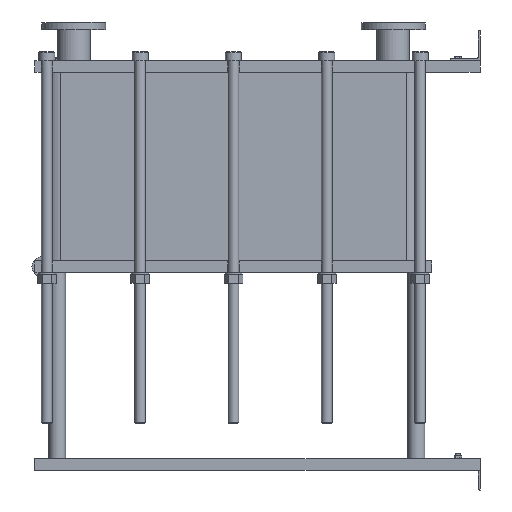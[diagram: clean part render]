
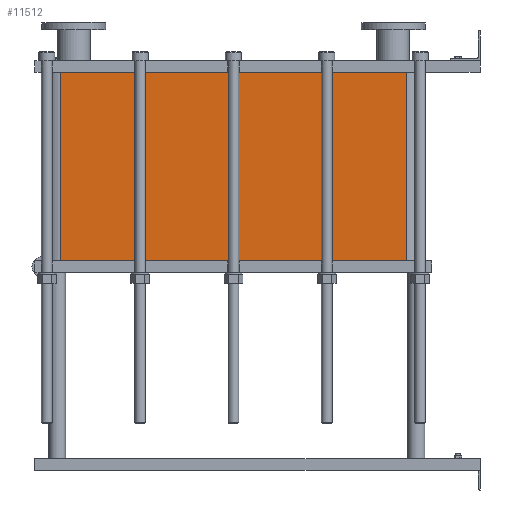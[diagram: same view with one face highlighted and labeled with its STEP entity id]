
A CAD part, left-side view. The second image highlights one B-rep face of the part: STEP entity #11512.
In plain terms, the highlighted planar face has unit normal (-1, 0, 0).
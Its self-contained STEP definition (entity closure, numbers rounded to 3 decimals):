
#1129=LINE('',#23232,#2102);
#1130=LINE('',#23236,#2103);
#1131=LINE('',#23238,#2104);
#1132=LINE('',#23239,#2105);
#2102=VECTOR('',#15887,10.);
#2103=VECTOR('',#15892,10.);
#2104=VECTOR('',#15893,10.);
#2105=VECTOR('',#15894,10.);
#3267=FACE_OUTER_BOUND('',#4093,.T.);
#4093=EDGE_LOOP('',(#10103,#10104,#10105,#10106));
#5642=VERTEX_POINT('',#23229);
#5643=VERTEX_POINT('',#23231);
#5644=VERTEX_POINT('',#23235);
#5645=VERTEX_POINT('',#23237);
#7159=EDGE_CURVE('',#5643,#5642,#1129,.T.);
#7161=EDGE_CURVE('',#5642,#5644,#1130,.T.);
#7162=EDGE_CURVE('',#5645,#5644,#1131,.T.);
#7163=EDGE_CURVE('',#5645,#5643,#1132,.T.);
#10103=ORIENTED_EDGE('',*,*,#7161,.T.);
#10104=ORIENTED_EDGE('',*,*,#7162,.F.);
#10105=ORIENTED_EDGE('',*,*,#7163,.T.);
#10106=ORIENTED_EDGE('',*,*,#7159,.T.);
#10857=PLANE('',#12751);
#11512=ADVANCED_FACE('',(#3267),#10857,.T.);
#12751=AXIS2_PLACEMENT_3D('',#23234,#15890,#15891);
#15887=DIRECTION('',(0.,0.,-1.));
#15890=DIRECTION('center_axis',(-1.,0.,0.));
#15891=DIRECTION('ref_axis',(0.,1.,0.));
#15892=DIRECTION('',(0.,-1.,0.));
#15893=DIRECTION('',(0.,0.,-1.));
#15894=DIRECTION('',(0.,1.,0.));
#23229=CARTESIAN_POINT('',(-200.,1414.,-634.8));
#23231=CARTESIAN_POINT('',(-200.,1414.,0.));
#23232=CARTESIAN_POINT('',(-200.,1414.,0.));
#23234=CARTESIAN_POINT('Origin',(-200.,248.,0.));
#23235=CARTESIAN_POINT('',(-200.,248.,-634.8));
#23236=CARTESIAN_POINT('',(-200.,539.5,-634.8));
#23237=CARTESIAN_POINT('',(-200.,248.,0.));
#23238=CARTESIAN_POINT('',(-200.,248.,0.));
#23239=CARTESIAN_POINT('',(-200.,248.,0.));
